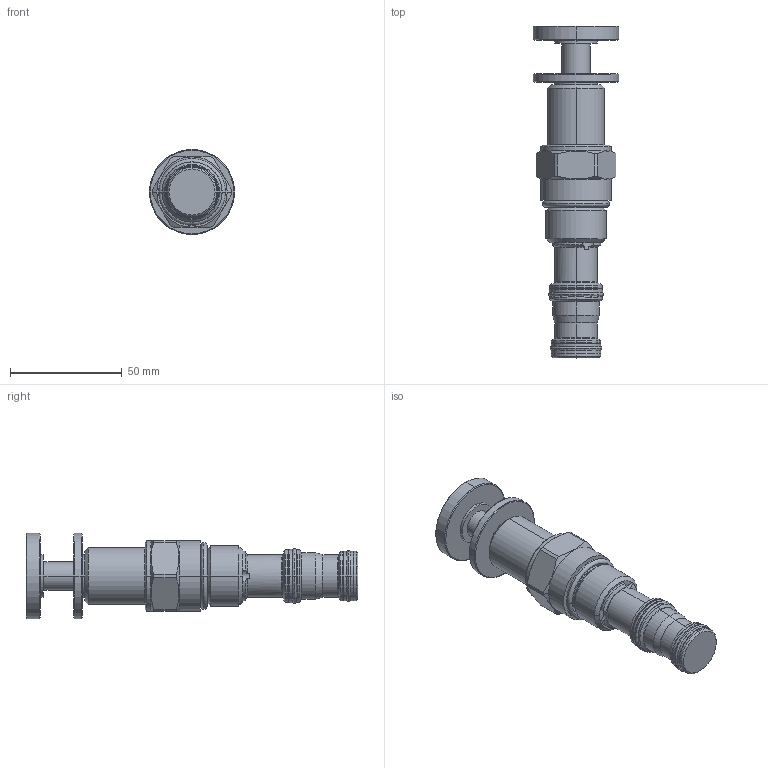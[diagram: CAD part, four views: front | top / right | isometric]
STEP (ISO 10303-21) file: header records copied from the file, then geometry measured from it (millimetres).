
FILE_DESCRIPTION((''),'2;1');
FILE_NAME('5616910_SW0002','2009-03-25T',('JCS'),(''),'PRO/ENGINEER BY PARAMETRIC TECHNOLOGY CORPORATION, 2008510','PRO/ENGINEER BY PARAMETRIC TECHNOLOGY CORPORATION, 2008510','');
FILE_SCHEMA(('CONFIG_CONTROL_DESIGN'));
Length unit declared in the file: inch
Products named in the file (1): 5616910_SW0002
Bounding box: 38.1 x 148.6 x 38.1 mm (x, y, z)
Volume: 75514.1 mm3; surface area: 19892.6 mm2
Topology: 4 solids, 4 shells, 222 faces, 495 edges, 291 vertices
Faces by surface type: cylinder 72, cone 55, plane 40, torus 31, revolution 24
Entity records: 7200 total; most frequent: CARTESIAN_POINT 2154, DIRECTION 1126, ORIENTED_EDGE 986, EDGE_CURVE 493, AXIS2_PLACEMENT_3D 471, VERTEX_POINT 291, CIRCLE 273, EDGE_LOOP 240
